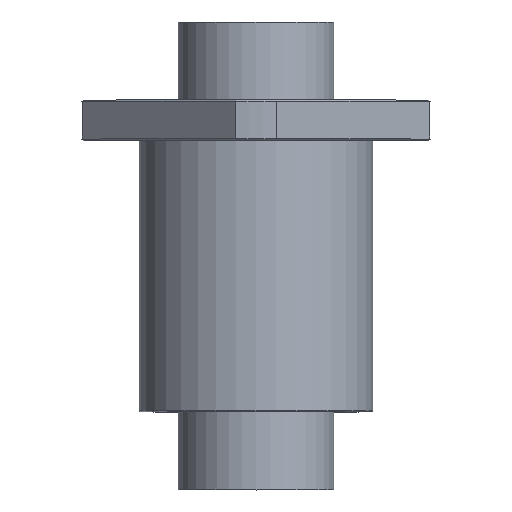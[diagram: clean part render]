
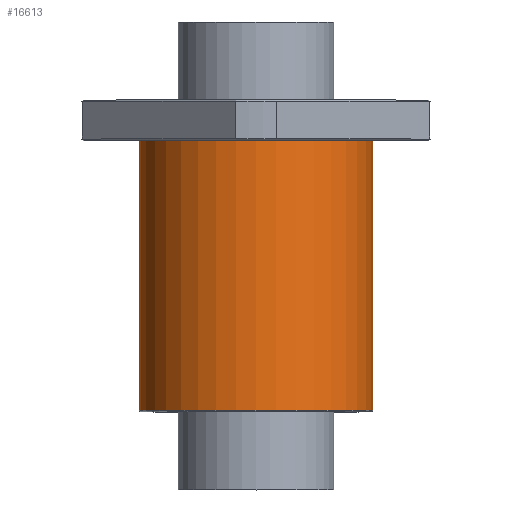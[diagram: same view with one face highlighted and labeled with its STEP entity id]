
A CAD part, top view. The second image highlights one B-rep face of the part: STEP entity #16613.
In plain terms, the highlighted cylindrical face has radius 37.5 mm (diameter 75 mm), a full revolution.
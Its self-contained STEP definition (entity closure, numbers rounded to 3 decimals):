
#2235=CYLINDRICAL_SURFACE('',#16975,37.5);
#2343=CIRCLE('',#16721,37.5);
#2344=CIRCLE('',#16722,37.5);
#2371=CIRCLE('',#16976,37.5);
#2372=CIRCLE('',#16977,37.5);
#2373=CIRCLE('',#16978,37.5);
#3259=FACE_OUTER_BOUND('',#4193,.T.);
#4193=EDGE_LOOP('',(#15461,#15462,#15463,#15464,#15465,#15466,#15467));
#5351=LINE('',#29879,#6503);
#6503=VECTOR('',#18819,37.5);
#6581=VERTEX_POINT('',#19076);
#6582=VERTEX_POINT('',#19077);
#8148=VERTEX_POINT('',#29874);
#8149=VERTEX_POINT('',#29875);
#8150=VERTEX_POINT('',#29877);
#8249=EDGE_CURVE('',#6581,#6582,#2343,.T.);
#8250=EDGE_CURVE('',#6582,#6581,#2344,.T.);
#10593=EDGE_CURVE('',#8148,#8149,#2371,.T.);
#10594=EDGE_CURVE('',#8150,#8148,#2372,.T.);
#10595=EDGE_CURVE('',#8150,#6582,#5351,.T.);
#10596=EDGE_CURVE('',#8149,#8150,#2373,.T.);
#15461=ORIENTED_EDGE('',*,*,#10593,.F.);
#15462=ORIENTED_EDGE('',*,*,#10594,.F.);
#15463=ORIENTED_EDGE('',*,*,#10595,.T.);
#15464=ORIENTED_EDGE('',*,*,#8250,.T.);
#15465=ORIENTED_EDGE('',*,*,#8249,.T.);
#15466=ORIENTED_EDGE('',*,*,#10595,.F.);
#15467=ORIENTED_EDGE('',*,*,#10596,.F.);
#16613=ADVANCED_FACE('',(#3259),#2235,.T.);
#16721=AXIS2_PLACEMENT_3D('',#19078,#17189,#17190);
#16722=AXIS2_PLACEMENT_3D('',#19079,#17191,#17192);
#16975=AXIS2_PLACEMENT_3D('',#29873,#18813,#18814);
#16976=AXIS2_PLACEMENT_3D('',#29876,#18815,#18816);
#16977=AXIS2_PLACEMENT_3D('',#29878,#18817,#18818);
#16978=AXIS2_PLACEMENT_3D('',#29880,#18820,#18821);
#17189=DIRECTION('center_axis',(0.,-1.,0.));
#17190=DIRECTION('ref_axis',(1.,0.,0.));
#17191=DIRECTION('center_axis',(0.,-1.,0.));
#17192=DIRECTION('ref_axis',(1.,0.,0.));
#18813=DIRECTION('center_axis',(0.,-1.,0.));
#18814=DIRECTION('ref_axis',(1.,0.,0.));
#18815=DIRECTION('center_axis',(0.,-1.,0.));
#18816=DIRECTION('ref_axis',(1.,0.,0.));
#18817=DIRECTION('center_axis',(0.,-1.,0.));
#18818=DIRECTION('ref_axis',(1.,0.,0.));
#18819=DIRECTION('',(0.,1.,0.));
#18820=DIRECTION('center_axis',(0.,-1.,0.));
#18821=DIRECTION('ref_axis',(1.,0.,0.));
#19076=CARTESIAN_POINT('',(37.5,37.,0.));
#19077=CARTESIAN_POINT('',(-37.5,37.,0.));
#19078=CARTESIAN_POINT('Origin',(0.,37.,0.));
#19079=CARTESIAN_POINT('Origin',(0.,37.,0.));
#29873=CARTESIAN_POINT('Origin',(0.,0.,0.));
#29874=CARTESIAN_POINT('',(37.5,-49.5,0.));
#29875=CARTESIAN_POINT('',(0.,-49.5,37.5));
#29876=CARTESIAN_POINT('Origin',(0.,-49.5,0.));
#29877=CARTESIAN_POINT('',(-37.5,-49.5,0.));
#29878=CARTESIAN_POINT('Origin',(0.,-49.5,0.));
#29879=CARTESIAN_POINT('',(-37.5,0.,0.));
#29880=CARTESIAN_POINT('Origin',(0.,-49.5,0.));
